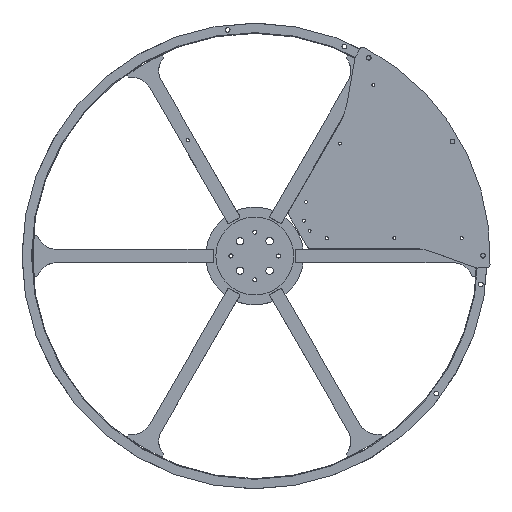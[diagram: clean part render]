
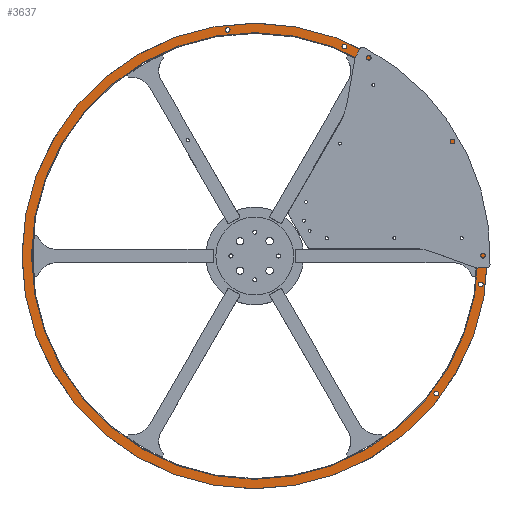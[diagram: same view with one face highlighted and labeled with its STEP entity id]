
A CAD part, top view. The second image highlights one B-rep face of the part: STEP entity #3637.
In plain terms, the highlighted planar face has unit normal (0, 0, 1) as drawn and (0, 0, -1) by its records, which use the part's own axes.
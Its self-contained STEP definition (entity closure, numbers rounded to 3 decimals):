
#66 = FACE_BOUND ( 'NONE', #11268, .T. ) ;
#274 = ORIENTED_EDGE ( 'NONE', *, *, #4538, .F. ) ;
#470 = CIRCLE ( 'NONE', #7510, 3.5 ) ;
#571 = EDGE_CURVE ( 'NONE', #4354, #10949, #10677, .T. ) ;
#763 = AXIS2_PLACEMENT_3D ( 'NONE', #3047, #8172, #10866 ) ;
#912 = AXIS2_PLACEMENT_3D ( 'NONE', #5789, #9576, #1941 ) ;
#1087 = AXIS2_PLACEMENT_3D ( 'NONE', #12180, #12308, #1664 ) ;
#1191 = CARTESIAN_POINT ( 'NONE',  ( 345., 0., 0. ) ) ;
#1338 = CIRCLE ( 'NONE', #2932, 345. ) ;
#1385 = CARTESIAN_POINT ( 'NONE',  ( -128.372, -310.67, 0. ) ) ;
#1411 = CIRCLE ( 'NONE', #6451, 331. ) ;
#1415 = VERTEX_POINT ( 'NONE', #10830 ) ;
#1455 = VERTEX_POINT ( 'NONE', #5775 ) ;
#1506 = DIRECTION ( 'NONE',  ( 0., 0., -1. ) ) ;
#1664 = DIRECTION ( 'NONE',  ( -1., 0., 0. ) ) ;
#1685 = CARTESIAN_POINT ( 'NONE',  ( 0., 0., 0. ) ) ;
#1740 = PLANE ( 'NONE',  #10857 ) ;
#1775 = AXIS2_PLACEMENT_3D ( 'NONE', #2001, #10511, #8693 ) ;
#1779 = CARTESIAN_POINT ( 'NONE',  ( -135.372, -310.67, 0. ) ) ;
#1872 = VERTEX_POINT ( 'NONE', #4166 ) ;
#1941 = DIRECTION ( 'NONE',  ( -1., 0., 0. ) ) ;
#2001 = CARTESIAN_POINT ( 'NONE',  ( 0., 0., 0. ) ) ;
#2179 = CIRCLE ( 'NONE', #4182, 3.5 ) ;
#2243 = EDGE_CURVE ( 'NONE', #10400, #6716, #470, .T. ) ;
#2346 = AXIS2_PLACEMENT_3D ( 'NONE', #11298, #8365, #5565 ) ;
#2405 = EDGE_CURVE ( 'NONE', #1872, #2466, #7207, .T. ) ;
#2466 = VERTEX_POINT ( 'NONE', #1191 ) ;
#2625 = DIRECTION ( 'NONE',  ( 0., 0., 1. ) ) ;
#2832 = EDGE_CURVE ( 'NONE', #10949, #4354, #2179, .T. ) ;
#2844 = CARTESIAN_POINT ( 'NONE',  ( 0., 0., 0. ) ) ;
#2932 = AXIS2_PLACEMENT_3D ( 'NONE', #2844, #4697, #8488 ) ;
#3047 = CARTESIAN_POINT ( 'NONE',  ( -131.872, -310.67, 0. ) ) ;
#3170 = ORIENTED_EDGE ( 'NONE', *, *, #2243, .F. ) ;
#3250 = ORIENTED_EDGE ( 'NONE', *, *, #7542, .F. ) ;
#3637 = ADVANCED_FACE ( 'NONE', ( #3790, #4706, #8436, #66, #11438, #7560 ), #1740, .F. ) ;
#3639 = DIRECTION ( 'NONE',  ( -1., 0., 0. ) ) ;
#3790 = FACE_BOUND ( 'NONE', #5624, .T. ) ;
#3806 = CARTESIAN_POINT ( 'NONE',  ( -334.984, 41.131, 0. ) ) ;
#3927 = CARTESIAN_POINT ( 'NONE',  ( -331.484, 41.131, 0. ) ) ;
#4086 = DIRECTION ( 'NONE',  ( 0., 0., -1. ) ) ;
#4102 = CIRCLE ( 'NONE', #912, 3.5 ) ;
#4166 = CARTESIAN_POINT ( 'NONE',  ( -345., 0., 0. ) ) ;
#4182 = AXIS2_PLACEMENT_3D ( 'NONE', #12164, #7652, #3639 ) ;
#4268 = DIRECTION ( 'NONE',  ( -1., 0., 0. ) ) ;
#4354 = VERTEX_POINT ( 'NONE', #3927 ) ;
#4392 = CARTESIAN_POINT ( 'NONE',  ( 0., 0., 0. ) ) ;
#4472 = VERTEX_POINT ( 'NONE', #6674 ) ;
#4477 = CARTESIAN_POINT ( 'NONE',  ( -331., 0., 0. ) ) ;
#4538 = EDGE_CURVE ( 'NONE', #7540, #8220, #9979, .T. ) ;
#4565 = CIRCLE ( 'NONE', #2346, 3.5 ) ;
#4697 = DIRECTION ( 'NONE',  ( 0., 0., 1. ) ) ;
#4706 = FACE_BOUND ( 'NONE', #8894, .T. ) ;
#4709 = EDGE_CURVE ( 'NONE', #1455, #1415, #4565, .T. ) ;
#4912 = EDGE_CURVE ( 'NONE', #2466, #1872, #1338, .T. ) ;
#5172 = ORIENTED_EDGE ( 'NONE', *, *, #5484, .T. ) ;
#5236 = AXIS2_PLACEMENT_3D ( 'NONE', #3806, #6616, #7632 ) ;
#5253 = ORIENTED_EDGE ( 'NONE', *, *, #571, .F. ) ;
#5421 = EDGE_LOOP ( 'NONE', ( #8008, #12167 ) ) ;
#5484 = EDGE_CURVE ( 'NONE', #11753, #4472, #1411, .T. ) ;
#5540 = ORIENTED_EDGE ( 'NONE', *, *, #10122, .F. ) ;
#5565 = DIRECTION ( 'NONE',  ( -1., 0., 0. ) ) ;
#5624 = EDGE_LOOP ( 'NONE', ( #5172, #8306 ) ) ;
#5775 = CARTESIAN_POINT ( 'NONE',  ( 37.631, -334.984, 0. ) ) ;
#5789 = CARTESIAN_POINT ( 'NONE',  ( -131.872, -310.67, 0. ) ) ;
#6341 = CIRCLE ( 'NONE', #7974, 3.5 ) ;
#6451 = AXIS2_PLACEMENT_3D ( 'NONE', #1685, #9315, #12132 ) ;
#6616 = DIRECTION ( 'NONE',  ( 0., 0., -1. ) ) ;
#6674 = CARTESIAN_POINT ( 'NONE',  ( 331., 0., 0. ) ) ;
#6716 = VERTEX_POINT ( 'NONE', #7258 ) ;
#6721 = ORIENTED_EDGE ( 'NONE', *, *, #2832, .F. ) ;
#7207 = CIRCLE ( 'NONE', #1775, 345. ) ;
#7258 = CARTESIAN_POINT ( 'NONE',  ( -266.039, 203.113, 0. ) ) ;
#7270 = CIRCLE ( 'NONE', #8291, 331. ) ;
#7491 = DIRECTION ( 'NONE',  ( 1., 0., 0. ) ) ;
#7510 = AXIS2_PLACEMENT_3D ( 'NONE', #11833, #1506, #4268 ) ;
#7540 = VERTEX_POINT ( 'NONE', #1385 ) ;
#7542 = EDGE_CURVE ( 'NONE', #6716, #10400, #6341, .T. ) ;
#7560 = FACE_BOUND ( 'NONE', #8279, .T. ) ;
#7632 = DIRECTION ( 'NONE',  ( -1., 0., 0. ) ) ;
#7652 = DIRECTION ( 'NONE',  ( 0., 0., -1. ) ) ;
#7910 = DIRECTION ( 'NONE',  ( -1., 0., 0. ) ) ;
#7974 = AXIS2_PLACEMENT_3D ( 'NONE', #10892, #4086, #7910 ) ;
#8008 = ORIENTED_EDGE ( 'NONE', *, *, #2405, .F. ) ;
#8172 = DIRECTION ( 'NONE',  ( 0., 0., -1. ) ) ;
#8220 = VERTEX_POINT ( 'NONE', #1779 ) ;
#8279 = EDGE_LOOP ( 'NONE', ( #10963, #274 ) ) ;
#8291 = AXIS2_PLACEMENT_3D ( 'NONE', #4392, #2625, #10312 ) ;
#8306 = ORIENTED_EDGE ( 'NONE', *, *, #8626, .T. ) ;
#8365 = DIRECTION ( 'NONE',  ( 0., 0., -1. ) ) ;
#8436 = FACE_BOUND ( 'NONE', #9719, .T. ) ;
#8488 = DIRECTION ( 'NONE',  ( 1., 0., 0. ) ) ;
#8557 = DIRECTION ( 'NONE',  ( 0., 0., 1. ) ) ;
#8626 = EDGE_CURVE ( 'NONE', #4472, #11753, #7270, .T. ) ;
#8693 = DIRECTION ( 'NONE',  ( 1., 0., 0. ) ) ;
#8894 = EDGE_LOOP ( 'NONE', ( #6721, #5253 ) ) ;
#9315 = DIRECTION ( 'NONE',  ( 0., 0., 1. ) ) ;
#9572 = CARTESIAN_POINT ( 'NONE',  ( -338.484, 41.131, 0. ) ) ;
#9576 = DIRECTION ( 'NONE',  ( 0., 0., -1. ) ) ;
#9719 = EDGE_LOOP ( 'NONE', ( #3170, #3250 ) ) ;
#9979 = CIRCLE ( 'NONE', #763, 3.5 ) ;
#10122 = EDGE_CURVE ( 'NONE', #1415, #1455, #11116, .T. ) ;
#10136 = ORIENTED_EDGE ( 'NONE', *, *, #4709, .F. ) ;
#10312 = DIRECTION ( 'NONE',  ( 1., 0., 0. ) ) ;
#10400 = VERTEX_POINT ( 'NONE', #12188 ) ;
#10511 = DIRECTION ( 'NONE',  ( 0., 0., 1. ) ) ;
#10677 = CIRCLE ( 'NONE', #5236, 3.5 ) ;
#10830 = CARTESIAN_POINT ( 'NONE',  ( 44.631, -334.984, 0. ) ) ;
#10857 = AXIS2_PLACEMENT_3D ( 'NONE', #11244, #8557, #7491 ) ;
#10866 = DIRECTION ( 'NONE',  ( -1., 0., 0. ) ) ;
#10892 = CARTESIAN_POINT ( 'NONE',  ( -269.539, 203.113, 0. ) ) ;
#10949 = VERTEX_POINT ( 'NONE', #9572 ) ;
#10963 = ORIENTED_EDGE ( 'NONE', *, *, #12350, .F. ) ;
#11116 = CIRCLE ( 'NONE', #1087, 3.5 ) ;
#11244 = CARTESIAN_POINT ( 'NONE',  ( 0., 0., 0. ) ) ;
#11268 = EDGE_LOOP ( 'NONE', ( #10136, #5540 ) ) ;
#11298 = CARTESIAN_POINT ( 'NONE',  ( 41.131, -334.984, 0. ) ) ;
#11438 = FACE_OUTER_BOUND ( 'NONE', #5421, .T. ) ;
#11753 = VERTEX_POINT ( 'NONE', #4477 ) ;
#11833 = CARTESIAN_POINT ( 'NONE',  ( -269.539, 203.113, 0. ) ) ;
#12132 = DIRECTION ( 'NONE',  ( 1., 0., 0. ) ) ;
#12164 = CARTESIAN_POINT ( 'NONE',  ( -334.984, 41.131, 0. ) ) ;
#12167 = ORIENTED_EDGE ( 'NONE', *, *, #4912, .F. ) ;
#12180 = CARTESIAN_POINT ( 'NONE',  ( 41.131, -334.984, 0. ) ) ;
#12188 = CARTESIAN_POINT ( 'NONE',  ( -273.039, 203.113, 0. ) ) ;
#12308 = DIRECTION ( 'NONE',  ( 0., 0., -1. ) ) ;
#12350 = EDGE_CURVE ( 'NONE', #8220, #7540, #4102, .T. ) ;
